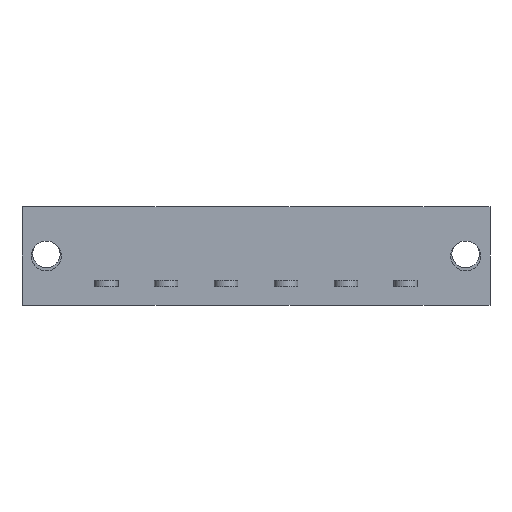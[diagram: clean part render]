
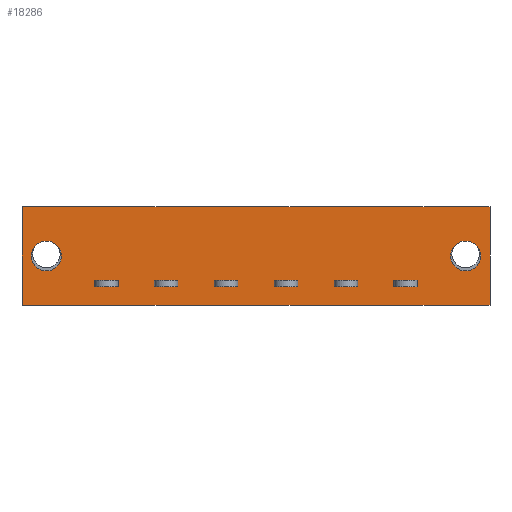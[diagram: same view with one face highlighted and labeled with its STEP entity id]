
A CAD part, front view. The second image highlights one B-rep face of the part: STEP entity #18286.
In plain terms, the highlighted planar face has unit normal (0, -1, 0).
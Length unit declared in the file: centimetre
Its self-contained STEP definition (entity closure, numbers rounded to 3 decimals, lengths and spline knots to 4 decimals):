
#823=PLANE('',#30128);
#1732=VECTOR('',#19713,1.);
#1929=VECTOR('',#20144,1.);
#1933=VECTOR('',#20149,1.);
#1936=VECTOR('',#20172,1.);
#1939=VECTOR('',#20176,1.);
#1950=VECTOR('',#20197,1.);
#1978=VECTOR('',#20228,1.);
#1979=VECTOR('',#20229,1.);
#1980=VECTOR('',#20230,1.);
#1981=VECTOR('',#20231,1.);
#1982=VECTOR('',#20232,1.);
#1983=VECTOR('',#20233,1.);
#1984=VECTOR('',#20234,1.);
#1985=VECTOR('',#20235,1.);
#1986=VECTOR('',#20236,1.);
#1987=VECTOR('',#20237,1.);
#1988=VECTOR('',#20238,1.);
#1989=VECTOR('',#20239,1.);
#1990=VECTOR('',#20240,1.);
#1991=VECTOR('',#20241,1.);
#1992=VECTOR('',#20242,1.);
#1993=VECTOR('',#20243,1.);
#1994=VECTOR('',#20244,1.);
#1995=VECTOR('',#20245,1.);
#1996=VECTOR('',#20246,1.);
#1997=VECTOR('',#20247,1.);
#1998=VECTOR('',#20248,1.);
#1999=VECTOR('',#20249,1.);
#3708=LINE('',#24417,#1732);
#3905=LINE('',#25071,#1929);
#3909=LINE('',#25080,#1933);
#3912=LINE('',#25101,#1936);
#3915=LINE('',#25106,#1939);
#3926=LINE('',#25135,#1950);
#3954=LINE('',#25192,#1978);
#3955=LINE('',#25195,#1979);
#3956=LINE('',#25197,#1980);
#3957=LINE('',#25199,#1981);
#3958=LINE('',#25200,#1982);
#3959=LINE('',#25203,#1983);
#3960=LINE('',#25205,#1984);
#3961=LINE('',#25207,#1985);
#3962=LINE('',#25208,#1986);
#3963=LINE('',#25211,#1987);
#3964=LINE('',#25213,#1988);
#3965=LINE('',#25215,#1989);
#3966=LINE('',#25216,#1990);
#3967=LINE('',#25219,#1991);
#3968=LINE('',#25221,#1992);
#3969=LINE('',#25223,#1993);
#3970=LINE('',#25224,#1994);
#3971=LINE('',#25227,#1995);
#3972=LINE('',#25229,#1996);
#3973=LINE('',#25231,#1997);
#3974=LINE('',#25232,#1998);
#3975=LINE('',#25234,#1999);
#5617=VERTEX_POINT('',#24416);
#5618=VERTEX_POINT('',#24418);
#5621=VERTEX_POINT('',#24426);
#5808=VERTEX_POINT('',#25072);
#5809=VERTEX_POINT('',#25073);
#5812=VERTEX_POINT('',#25081);
#5819=VERTEX_POINT('',#25102);
#5832=VERTEX_POINT('',#25136);
#5858=VERTEX_POINT('',#25191);
#5859=VERTEX_POINT('',#25193);
#5860=VERTEX_POINT('',#25194);
#5861=VERTEX_POINT('',#25196);
#5862=VERTEX_POINT('',#25198);
#5863=VERTEX_POINT('',#25201);
#5864=VERTEX_POINT('',#25202);
#5865=VERTEX_POINT('',#25204);
#5866=VERTEX_POINT('',#25206);
#5867=VERTEX_POINT('',#25209);
#5868=VERTEX_POINT('',#25210);
#5869=VERTEX_POINT('',#25212);
#5870=VERTEX_POINT('',#25214);
#5871=VERTEX_POINT('',#25217);
#5872=VERTEX_POINT('',#25218);
#5873=VERTEX_POINT('',#25220);
#5874=VERTEX_POINT('',#25222);
#5875=VERTEX_POINT('',#25225);
#5876=VERTEX_POINT('',#25226);
#5877=VERTEX_POINT('',#25228);
#5878=VERTEX_POINT('',#25230);
#5879=VERTEX_POINT('',#25233);
#7088=CIRCLE('',#29955,0.19);
#7150=CIRCLE('',#30129,0.19);
#7968=EDGE_CURVE('',#5618,#5617,#3708,.T.);
#7972=EDGE_CURVE('',#5621,#5621,#7088,.T.);
#8254=EDGE_CURVE('',#5808,#5809,#3905,.T.);
#8258=EDGE_CURVE('',#5812,#5808,#3909,.T.);
#8267=EDGE_CURVE('',#5819,#5812,#3912,.T.);
#8270=EDGE_CURVE('',#5809,#5819,#3915,.T.);
#8284=EDGE_CURVE('',#5832,#5617,#3926,.T.);
#8312=EDGE_CURVE('',#5858,#5858,#7150,.T.);
#8313=EDGE_CURVE('',#5859,#5860,#3954,.T.);
#8314=EDGE_CURVE('',#5860,#5861,#3955,.T.);
#8315=EDGE_CURVE('',#5861,#5862,#3956,.T.);
#8316=EDGE_CURVE('',#5862,#5859,#3957,.T.);
#8317=EDGE_CURVE('',#5863,#5864,#3958,.T.);
#8318=EDGE_CURVE('',#5864,#5865,#3959,.T.);
#8319=EDGE_CURVE('',#5865,#5866,#3960,.T.);
#8320=EDGE_CURVE('',#5866,#5863,#3961,.T.);
#8321=EDGE_CURVE('',#5867,#5868,#3962,.T.);
#8322=EDGE_CURVE('',#5868,#5869,#3963,.T.);
#8323=EDGE_CURVE('',#5869,#5870,#3964,.T.);
#8324=EDGE_CURVE('',#5870,#5867,#3965,.T.);
#8325=EDGE_CURVE('',#5871,#5872,#3966,.T.);
#8326=EDGE_CURVE('',#5872,#5873,#3967,.T.);
#8327=EDGE_CURVE('',#5873,#5874,#3968,.T.);
#8328=EDGE_CURVE('',#5874,#5871,#3969,.T.);
#8329=EDGE_CURVE('',#5875,#5876,#3970,.T.);
#8330=EDGE_CURVE('',#5876,#5877,#3971,.T.);
#8331=EDGE_CURVE('',#5877,#5878,#3972,.T.);
#8332=EDGE_CURVE('',#5878,#5875,#3973,.T.);
#8333=EDGE_CURVE('',#5879,#5618,#3974,.T.);
#8334=EDGE_CURVE('',#5832,#5879,#3975,.T.);
#11869=ORIENTED_EDGE('',*,*,#7972,.T.);
#11870=ORIENTED_EDGE('',*,*,#8312,.T.);
#11871=ORIENTED_EDGE('',*,*,#8258,.F.);
#11872=ORIENTED_EDGE('',*,*,#8267,.F.);
#11873=ORIENTED_EDGE('',*,*,#8270,.F.);
#11874=ORIENTED_EDGE('',*,*,#8254,.F.);
#11875=ORIENTED_EDGE('',*,*,#8313,.T.);
#11876=ORIENTED_EDGE('',*,*,#8314,.T.);
#11877=ORIENTED_EDGE('',*,*,#8315,.T.);
#11878=ORIENTED_EDGE('',*,*,#8316,.T.);
#11879=ORIENTED_EDGE('',*,*,#8317,.T.);
#11880=ORIENTED_EDGE('',*,*,#8318,.T.);
#11881=ORIENTED_EDGE('',*,*,#8319,.T.);
#11882=ORIENTED_EDGE('',*,*,#8320,.T.);
#11883=ORIENTED_EDGE('',*,*,#8321,.T.);
#11884=ORIENTED_EDGE('',*,*,#8322,.T.);
#11885=ORIENTED_EDGE('',*,*,#8323,.T.);
#11886=ORIENTED_EDGE('',*,*,#8324,.T.);
#11887=ORIENTED_EDGE('',*,*,#8325,.T.);
#11888=ORIENTED_EDGE('',*,*,#8326,.T.);
#11889=ORIENTED_EDGE('',*,*,#8327,.T.);
#11890=ORIENTED_EDGE('',*,*,#8328,.T.);
#11891=ORIENTED_EDGE('',*,*,#8329,.T.);
#11892=ORIENTED_EDGE('',*,*,#8330,.T.);
#11893=ORIENTED_EDGE('',*,*,#8331,.T.);
#11894=ORIENTED_EDGE('',*,*,#8332,.T.);
#11895=ORIENTED_EDGE('',*,*,#8333,.T.);
#11896=ORIENTED_EDGE('',*,*,#7968,.T.);
#11897=ORIENTED_EDGE('',*,*,#8284,.F.);
#11898=ORIENTED_EDGE('',*,*,#8334,.T.);
#16009=EDGE_LOOP('',(#11869));
#16010=EDGE_LOOP('',(#11870));
#16011=EDGE_LOOP('',(#11871,#11872,#11873,#11874));
#16012=EDGE_LOOP('',(#11875,#11876,#11877,#11878));
#16013=EDGE_LOOP('',(#11879,#11880,#11881,#11882));
#16014=EDGE_LOOP('',(#11883,#11884,#11885,#11886));
#16015=EDGE_LOOP('',(#11887,#11888,#11889,#11890));
#16016=EDGE_LOOP('',(#11891,#11892,#11893,#11894));
#16017=EDGE_LOOP('',(#11895,#11896,#11897,#11898));
#17167=FACE_BOUND('',#16009,.T.);
#17168=FACE_BOUND('',#16010,.T.);
#17169=FACE_BOUND('',#16011,.T.);
#17170=FACE_BOUND('',#16012,.T.);
#17171=FACE_BOUND('',#16013,.T.);
#17172=FACE_BOUND('',#16014,.T.);
#17173=FACE_BOUND('',#16015,.T.);
#17174=FACE_BOUND('',#16016,.T.);
#17175=FACE_BOUND('',#16017,.T.);
#18286=ADVANCED_FACE('',(#17167,#17168,#17169,#17170,#17171,#17172,#17173,
#17174,#17175),#823,.T.);
#19713=DIRECTION('',(0.,0.,1.));
#19719=DIRECTION('',(0.,1.,0.));
#19720=DIRECTION('',(0.19,0.,0.));
#20144=DIRECTION('',(0.,0.,-1.));
#20149=DIRECTION('',(-1.,0.,0.));
#20172=DIRECTION('',(0.,0.,1.));
#20176=DIRECTION('',(1.,0.,0.));
#20197=DIRECTION('',(1.,0.,0.));
#20225=DIRECTION('',(0.,-1.,0.));
#20226=DIRECTION('',(0.,1.,0.));
#20227=DIRECTION('',(0.19,0.,0.));
#20228=DIRECTION('',(1.,0.,0.));
#20229=DIRECTION('',(0.,0.,-1.));
#20230=DIRECTION('',(-1.,0.,0.));
#20231=DIRECTION('',(0.,0.,1.));
#20232=DIRECTION('',(1.,0.,0.));
#20233=DIRECTION('',(0.,0.,-1.));
#20234=DIRECTION('',(-1.,0.,0.));
#20235=DIRECTION('',(0.,0.,1.));
#20236=DIRECTION('',(1.,0.,0.));
#20237=DIRECTION('',(0.,0.,-1.));
#20238=DIRECTION('',(-1.,0.,0.));
#20239=DIRECTION('',(0.,0.,1.));
#20240=DIRECTION('',(1.,0.,0.));
#20241=DIRECTION('',(0.,0.,-1.));
#20242=DIRECTION('',(-1.,0.,0.));
#20243=DIRECTION('',(0.,0.,1.));
#20244=DIRECTION('',(1.,0.,0.));
#20245=DIRECTION('',(0.,0.,-1.));
#20246=DIRECTION('',(-1.,0.,0.));
#20247=DIRECTION('',(0.,0.,1.));
#20248=DIRECTION('',(1.,0.,0.));
#20249=DIRECTION('',(0.,0.,-1.));
#24416=CARTESIAN_POINT('',(4.572,0.,0.625));
#24417=CARTESIAN_POINT('',(4.572,0.,0.625));
#24418=CARTESIAN_POINT('',(4.572,0.,-0.625));
#24425=CARTESIAN_POINT('',(4.262,0.,0.));
#24426=CARTESIAN_POINT('',(4.072,0.,0.));
#25071=CARTESIAN_POINT('',(-0.46,0.,-0.175));
#25072=CARTESIAN_POINT('',(-0.46,0.,-0.31));
#25073=CARTESIAN_POINT('',(-0.46,0.,-0.39));
#25080=CARTESIAN_POINT('',(-0.465,0.,-0.31));
#25081=CARTESIAN_POINT('',(-0.16,0.,-0.31));
#25101=CARTESIAN_POINT('',(-0.16,0.,-0.175));
#25102=CARTESIAN_POINT('',(-0.16,0.,-0.39));
#25106=CARTESIAN_POINT('',(-0.465,0.,-0.39));
#25135=CARTESIAN_POINT('',(-1.382,0.,0.625));
#25136=CARTESIAN_POINT('',(-1.382,0.,0.625));
#25189=CARTESIAN_POINT('',(0.,0.,0.));
#25190=CARTESIAN_POINT('',(-1.072,0.,0.));
#25191=CARTESIAN_POINT('',(-1.262,0.,0.));
#25192=CARTESIAN_POINT('',(1.75,0.,-0.31));
#25193=CARTESIAN_POINT('',(3.35,0.,-0.31));
#25194=CARTESIAN_POINT('',(3.65,0.,-0.31));
#25195=CARTESIAN_POINT('',(3.65,0.,-0.175));
#25196=CARTESIAN_POINT('',(3.65,0.,-0.39));
#25197=CARTESIAN_POINT('',(1.75,0.,-0.39));
#25198=CARTESIAN_POINT('',(3.35,0.,-0.39));
#25199=CARTESIAN_POINT('',(3.35,0.,-0.175));
#25200=CARTESIAN_POINT('',(1.369,0.,-0.31));
#25201=CARTESIAN_POINT('',(2.588,0.,-0.31));
#25202=CARTESIAN_POINT('',(2.888,0.,-0.31));
#25203=CARTESIAN_POINT('',(2.888,0.,-0.175));
#25204=CARTESIAN_POINT('',(2.888,0.,-0.39));
#25205=CARTESIAN_POINT('',(1.369,0.,-0.39));
#25206=CARTESIAN_POINT('',(2.588,0.,-0.39));
#25207=CARTESIAN_POINT('',(2.588,0.,-0.175));
#25208=CARTESIAN_POINT('',(0.988,0.,-0.31));
#25209=CARTESIAN_POINT('',(1.826,0.,-0.31));
#25210=CARTESIAN_POINT('',(2.126,0.,-0.31));
#25211=CARTESIAN_POINT('',(2.126,0.,-0.175));
#25212=CARTESIAN_POINT('',(2.126,0.,-0.39));
#25213=CARTESIAN_POINT('',(0.988,0.,-0.39));
#25214=CARTESIAN_POINT('',(1.826,0.,-0.39));
#25215=CARTESIAN_POINT('',(1.826,0.,-0.175));
#25216=CARTESIAN_POINT('',(0.607,0.,-0.31));
#25217=CARTESIAN_POINT('',(1.064,0.,-0.31));
#25218=CARTESIAN_POINT('',(1.364,0.,-0.31));
#25219=CARTESIAN_POINT('',(1.364,0.,-0.175));
#25220=CARTESIAN_POINT('',(1.364,0.,-0.39));
#25221=CARTESIAN_POINT('',(0.607,0.,-0.39));
#25222=CARTESIAN_POINT('',(1.064,0.,-0.39));
#25223=CARTESIAN_POINT('',(1.064,0.,-0.175));
#25224=CARTESIAN_POINT('',(0.226,0.,-0.31));
#25225=CARTESIAN_POINT('',(0.302,0.,-0.31));
#25226=CARTESIAN_POINT('',(0.602,0.,-0.31));
#25227=CARTESIAN_POINT('',(0.602,0.,-0.175));
#25228=CARTESIAN_POINT('',(0.602,0.,-0.39));
#25229=CARTESIAN_POINT('',(0.226,0.,-0.39));
#25230=CARTESIAN_POINT('',(0.302,0.,-0.39));
#25231=CARTESIAN_POINT('',(0.302,0.,-0.175));
#25232=CARTESIAN_POINT('',(-1.382,0.,-0.625));
#25233=CARTESIAN_POINT('',(-1.382,0.,-0.625));
#25234=CARTESIAN_POINT('',(-1.382,0.,0.625));
#29955=AXIS2_PLACEMENT_3D('',#24425,#19719,#19720);
#30128=AXIS2_PLACEMENT_3D('',#25189,#20225,$);
#30129=AXIS2_PLACEMENT_3D('',#25190,#20226,#20227);
